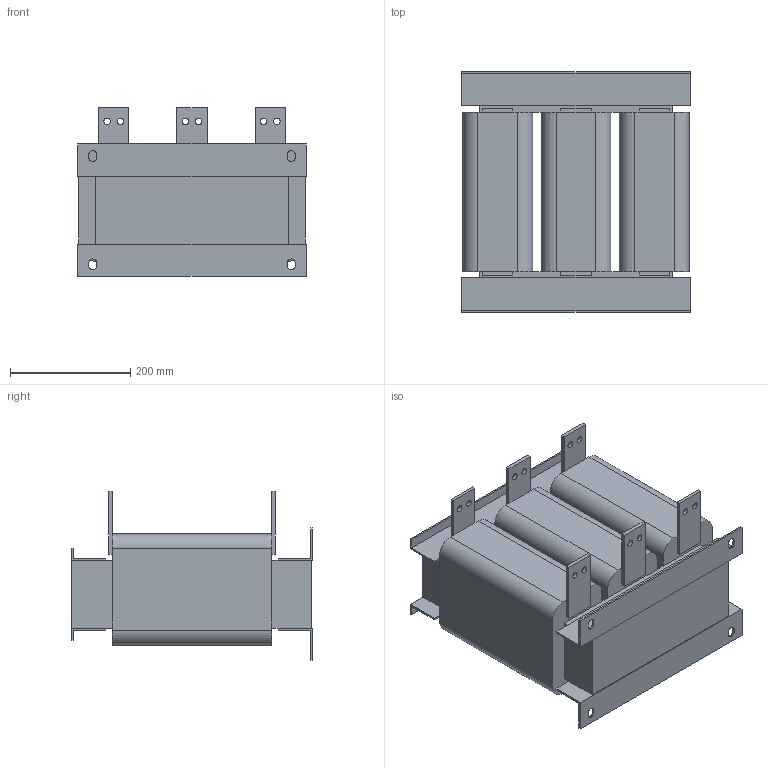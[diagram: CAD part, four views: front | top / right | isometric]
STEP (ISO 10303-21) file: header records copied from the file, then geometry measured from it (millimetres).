
FILE_DESCRIPTION(/* description */ (''),/* implementation_level */ '2;1');
FILE_NAME(/* name */ 'E:\Работа\Веда МК (Данфосс)\!Текущие задачи\2024.08.30 3D модели\Дроссели\ACO 1-проц 660 В\STP\ACO-C-0760-T6.stp',/* time_stamp */ '2024-11-01T18:09:40+04:00',/* author */ ('Александр (огранич)'),/* organization */ (''),/* preprocessor_version */ 'ST-DEVELOPER v18.1',/* originating_system */ 'Autodesk Inventor 2021',/* authorisation */ '');
FILE_SCHEMA (('AUTOMOTIVE_DESIGN { 1 0 10303 214 3 1 1 }'));
Length unit declared in the file: millimetre
Products named in the file (1): ACO-0015-T4-4
Bounding box: 380 x 400 x 280.5 mm (x, y, z)
Volume: 22035263.7 mm3; surface area: 966944.9 mm2
Topology: 3 solids, 3 shells, 142 faces, 394 edges, 254 vertices
Faces by surface type: plane 110, cylinder 32
Full cylindrical faces by diameter (mm): 11 x12
Entity records: 4591 total; most frequent: CARTESIAN_POINT 791, ORIENTED_EDGE 788, DIRECTION 750, EDGE_CURVE 394, LINE 324, VECTOR 324, VERTEX_POINT 254, AXIS2_PLACEMENT_3D 213
